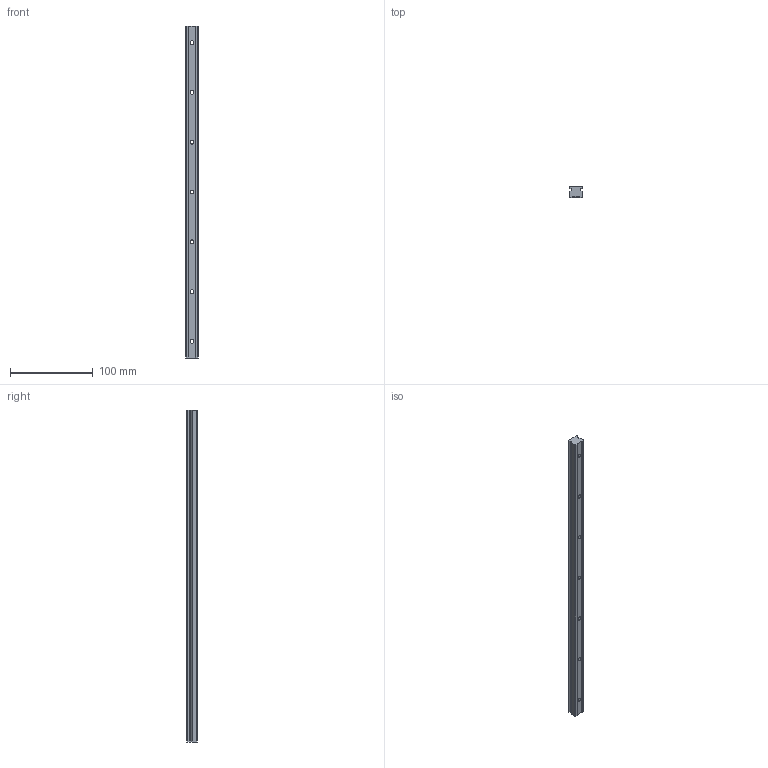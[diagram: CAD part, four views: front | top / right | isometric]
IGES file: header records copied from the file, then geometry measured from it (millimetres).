
Start section: SolidWorks IGES file using analytic representation for surfaces
Global section: file name: C:\Users\IanO\Desktop\L1016_v2\L1016.BL15_v2\L1016.BL15_v2_20190611_IGES\L1016.BL15-0400.igs; native system: SolidWorks 2017; preprocessor: SolidWorks 2017; author: IanO; date: 190612.122535; units: millimetre
Bounding box: 15 x 13 x 400 mm (x, y, z)
Surface area: 24790.2 mm2 (no closed solid volume)
Topology: 0 solids, 0 shells, 61 faces, 1160 edges, 1160 vertices
Faces by surface type: revolution 32, bspline 29
